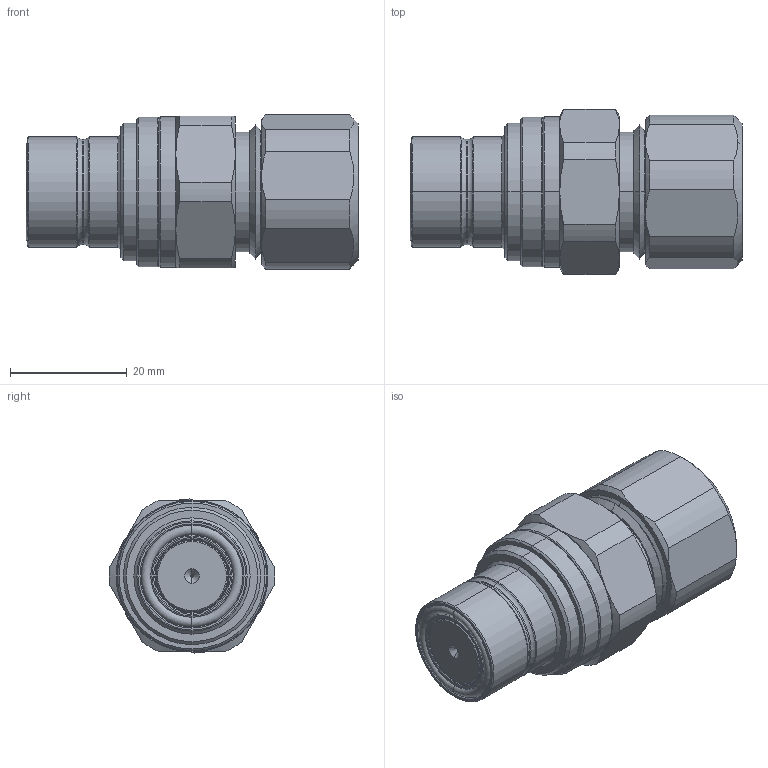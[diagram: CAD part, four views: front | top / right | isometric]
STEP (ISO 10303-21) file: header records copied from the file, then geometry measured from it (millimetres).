
FILE_DESCRIPTION (( 'STEP AP203' ), '1' );
FILE_NAME ('QD4-FT13X19.STEP', '2025-07-31T05:22:07', ( 'aksong' ), ( '' ), 'SwSTEP 2.0', 'SolidWorks 2012', '' );
FILE_SCHEMA (( 'CONFIG_CONTROL_DESIGN' ));
Length unit declared in the file: millimetre
Products named in the file (4): QD4-FT13X19; Compression 13X19 cap nut; male body; 13x19 哪橇饭寂 male 畴榴
Assembly tree (3 placements, depth 2):
  QD4-FT13X19
    13x19 哪橇饭寂 male 畴榴
    male body
    Compression 13X19 cap nut
Bounding box: 56.85 x 28.28 x 26.39 mm (x, y, z)
Volume: 20440.9 mm3; surface area: 10265.7 mm2
Topology: 3 solids, 3 shells, 237 faces, 492 edges, 276 vertices
Faces by surface type: cone 100, cylinder 80, plane 33, torus 24
Entity records: 6810 total; most frequent: CARTESIAN_POINT 1279, DIRECTION 1208, ORIENTED_EDGE 984, AXIS2_PLACEMENT_3D 517, EDGE_CURVE 492, VERTEX_POINT 276, CIRCLE 274, EDGE_LOOP 254
